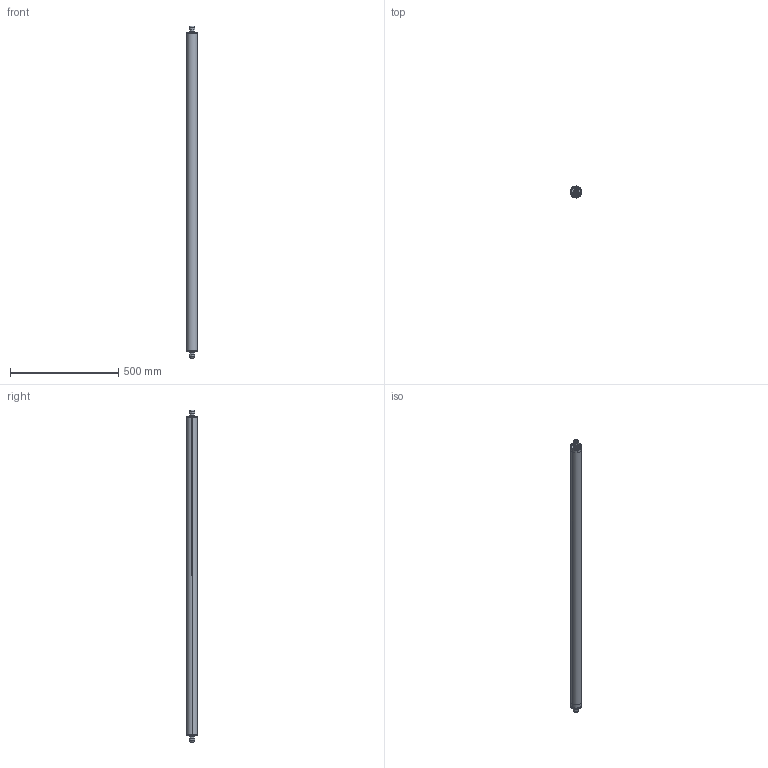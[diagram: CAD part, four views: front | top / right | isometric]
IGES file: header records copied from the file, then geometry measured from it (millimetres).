
Start section: SolidWorks IGES file using analytic representation for surfaces
Global section: file name: C:\Users\JoãoSantos\Desktop\02_3D.2D\01_2020\02_Linear\02_Tubo\01_Tubo_50\Repicagem\TUBO_50_REP_1472.IGS; native system: SolidWorks 2020; preprocessor: SolidWorks 2020; author: JoãoSantos; date: 201020.173830; units: millimetre
Bounding box: 53 x 53 x 1536 mm (x, y, z)
Surface area: 491979.3 mm2 (no closed solid volume)
Topology: 0 solids, 0 shells, 1534 faces, 13990 edges, 13930 vertices
Faces by surface type: revolution 856, bspline 678
